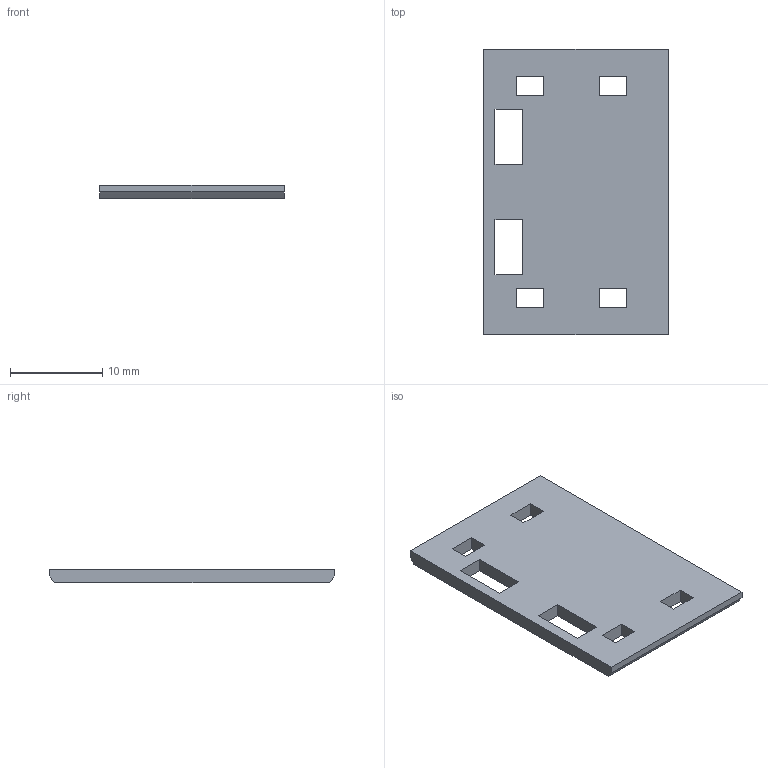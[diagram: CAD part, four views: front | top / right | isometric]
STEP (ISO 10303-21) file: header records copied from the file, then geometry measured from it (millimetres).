
FILE_DESCRIPTION(('Open CASCADE Model'),'2;1');
FILE_NAME('Open CASCADE Shape Model','2026-10-04T08:08:20',('Author'),( 'Open CASCADE'),'Open CASCADE STEP processor 7.9','Open CASCADE 7.9' ,'Unknown');
FILE_SCHEMA(('AUTOMOTIVE_DESIGN { 1 0 10303 214 1 1 1 1 }'));
Length unit declared in the file: millimetre
Products named in the file (1): Open CASCADE STEP translator 7.9 8
Bounding box: 20 x 31 x 1.5 mm (x, y, z)
Volume: 831.5 mm3; surface area: 1370.9 mm2
Topology: 1 solids, 1 shells, 32 faces, 90 edges, 60 vertices
Faces by surface type: plane 30, cylinder 2
Entity records: 2118 total; most frequent: CARTESIAN_POINT 467, DIRECTION 236, ORIENTED_EDGE 180, PCURVE 180, DEFINITIONAL_REPRESENTATION 180, LINE 158, VECTOR 158, B_SPLINE_CURVE_WITH_KNOTS 104
